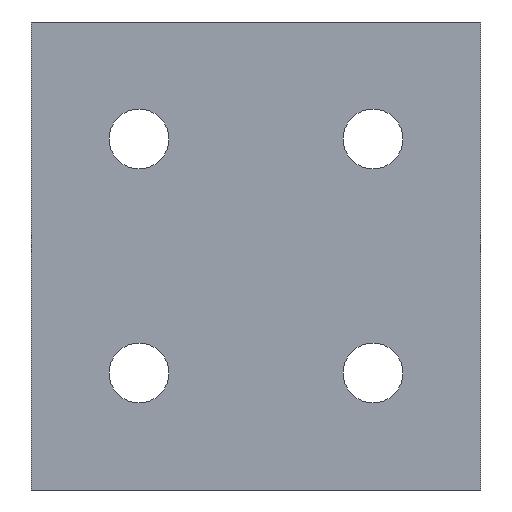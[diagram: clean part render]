
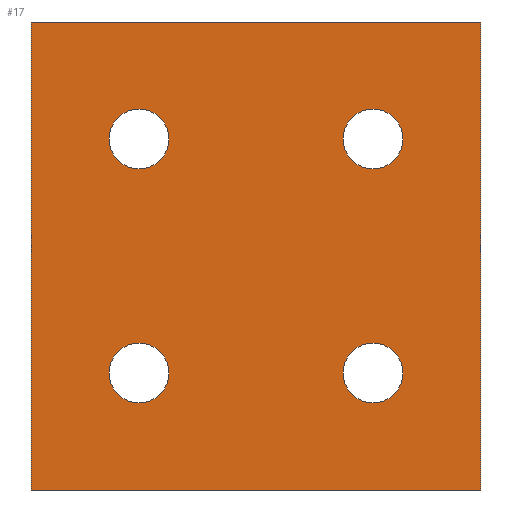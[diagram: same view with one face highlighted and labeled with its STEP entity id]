
A CAD part, left-side view. The second image highlights one B-rep face of the part: STEP entity #17.
In plain terms, the highlighted planar face has unit normal (-1, 0, 0).
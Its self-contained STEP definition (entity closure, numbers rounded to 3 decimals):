
#17 = ADVANCED_FACE('',(#18,#52,#63,#74,#85),#96,.F.);
#18 = FACE_BOUND('',#19,.F.);
#19 = EDGE_LOOP('',(#20,#30,#38,#46));
#20 = ORIENTED_EDGE('',*,*,#21,.F.);
#21 = EDGE_CURVE('',#22,#24,#26,.T.);
#22 = VERTEX_POINT('',#23);
#23 = CARTESIAN_POINT('',(-10.,-8.65,-22.));
#24 = VERTEX_POINT('',#25);
#25 = CARTESIAN_POINT('',(-10.,-8.65,-4.));
#26 = LINE('',#27,#28);
#27 = CARTESIAN_POINT('',(-10.,-8.65,-22.));
#28 = VECTOR('',#29,1.);
#29 = DIRECTION('',(0.,0.,1.));
#30 = ORIENTED_EDGE('',*,*,#31,.T.);
#31 = EDGE_CURVE('',#22,#32,#34,.T.);
#32 = VERTEX_POINT('',#33);
#33 = CARTESIAN_POINT('',(-10.,8.65,-22.));
#34 = LINE('',#35,#36);
#35 = CARTESIAN_POINT('',(-10.,-8.65,-22.));
#36 = VECTOR('',#37,1.);
#37 = DIRECTION('',(-0.,1.,0.));
#38 = ORIENTED_EDGE('',*,*,#39,.T.);
#39 = EDGE_CURVE('',#32,#40,#42,.T.);
#40 = VERTEX_POINT('',#41);
#41 = CARTESIAN_POINT('',(-10.,8.65,-4.));
#42 = LINE('',#43,#44);
#43 = CARTESIAN_POINT('',(-10.,8.65,-22.));
#44 = VECTOR('',#45,1.);
#45 = DIRECTION('',(0.,0.,1.));
#46 = ORIENTED_EDGE('',*,*,#47,.F.);
#47 = EDGE_CURVE('',#24,#40,#48,.T.);
#48 = LINE('',#49,#50);
#49 = CARTESIAN_POINT('',(-10.,-8.65,-4.));
#50 = VECTOR('',#51,1.);
#51 = DIRECTION('',(-0.,1.,0.));
#52 = FACE_BOUND('',#53,.F.);
#53 = EDGE_LOOP('',(#54));
#54 = ORIENTED_EDGE('',*,*,#55,.F.);
#55 = EDGE_CURVE('',#56,#56,#58,.T.);
#56 = VERTEX_POINT('',#57);
#57 = CARTESIAN_POINT('',(-10.,4.5,-16.35));
#58 = CIRCLE('',#59,1.15);
#59 = AXIS2_PLACEMENT_3D('',#60,#61,#62);
#60 = CARTESIAN_POINT('',(-10.,4.5,-17.5));
#61 = DIRECTION('',(1.,0.,0.));
#62 = DIRECTION('',(-0.,0.,1.));
#63 = FACE_BOUND('',#64,.F.);
#64 = EDGE_LOOP('',(#65));
#65 = ORIENTED_EDGE('',*,*,#66,.F.);
#66 = EDGE_CURVE('',#67,#67,#69,.T.);
#67 = VERTEX_POINT('',#68);
#68 = CARTESIAN_POINT('',(-10.,4.5,-7.35));
#69 = CIRCLE('',#70,1.15);
#70 = AXIS2_PLACEMENT_3D('',#71,#72,#73);
#71 = CARTESIAN_POINT('',(-10.,4.5,-8.5));
#72 = DIRECTION('',(1.,0.,0.));
#73 = DIRECTION('',(-0.,0.,1.));
#74 = FACE_BOUND('',#75,.F.);
#75 = EDGE_LOOP('',(#76));
#76 = ORIENTED_EDGE('',*,*,#77,.F.);
#77 = EDGE_CURVE('',#78,#78,#80,.T.);
#78 = VERTEX_POINT('',#79);
#79 = CARTESIAN_POINT('',(-10.,-4.5,-16.35));
#80 = CIRCLE('',#81,1.15);
#81 = AXIS2_PLACEMENT_3D('',#82,#83,#84);
#82 = CARTESIAN_POINT('',(-10.,-4.5,-17.5));
#83 = DIRECTION('',(1.,0.,0.));
#84 = DIRECTION('',(-0.,0.,1.));
#85 = FACE_BOUND('',#86,.F.);
#86 = EDGE_LOOP('',(#87));
#87 = ORIENTED_EDGE('',*,*,#88,.F.);
#88 = EDGE_CURVE('',#89,#89,#91,.T.);
#89 = VERTEX_POINT('',#90);
#90 = CARTESIAN_POINT('',(-10.,-4.5,-7.35));
#91 = CIRCLE('',#92,1.15);
#92 = AXIS2_PLACEMENT_3D('',#93,#94,#95);
#93 = CARTESIAN_POINT('',(-10.,-4.5,-8.5));
#94 = DIRECTION('',(1.,0.,0.));
#95 = DIRECTION('',(-0.,0.,1.));
#96 = PLANE('',#97);
#97 = AXIS2_PLACEMENT_3D('',#98,#99,#100);
#98 = CARTESIAN_POINT('',(-10.,-8.65,-22.));
#99 = DIRECTION('',(1.,0.,-0.));
#100 = DIRECTION('',(0.,0.,1.));
